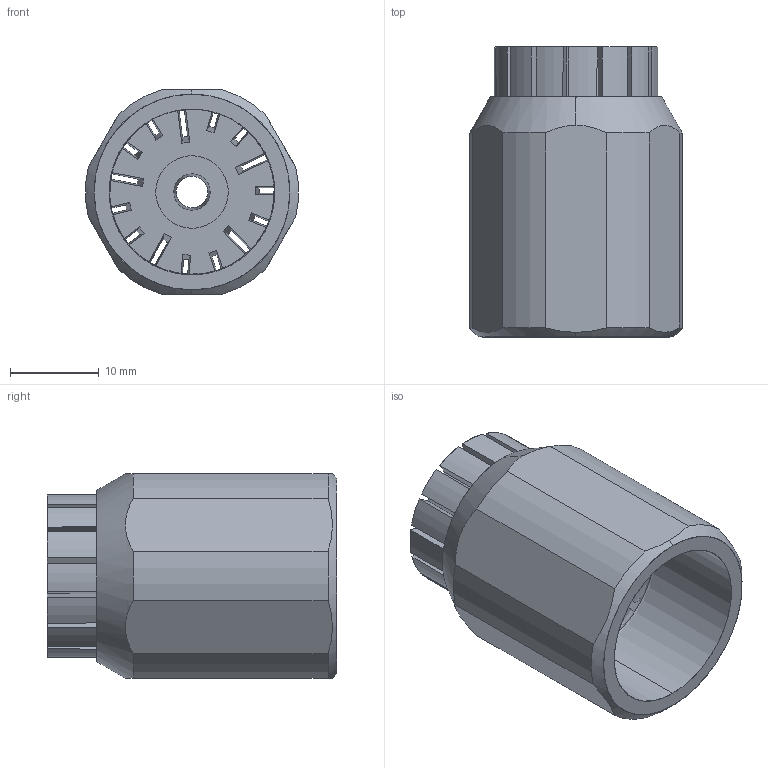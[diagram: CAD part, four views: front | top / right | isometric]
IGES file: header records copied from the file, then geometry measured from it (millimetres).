
Start section: SolidWorks IGES file using analytic representation for surfaces
Global section: file name: G:\Silvent\Ritningar\Övrigt\IGES\Silvent 707-L.IGS; native system: SolidWorks 2011; preprocessor: SolidWorks 2011; author: silvpesv; date: 111123.115854; units: millimetre
Bounding box: 23.93 x 32.61 x 23 mm (x, y, z)
Surface area: 6826.4 mm2 (no closed solid volume)
Topology: 0 solids, 0 shells, 93 faces, 882 edges, 882 vertices
Faces by surface type: bspline 61, revolution 32
